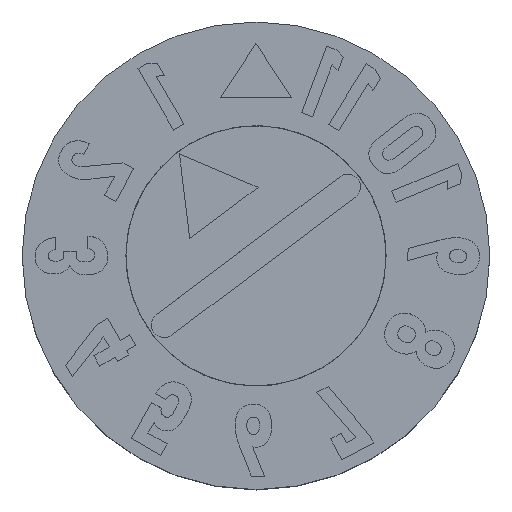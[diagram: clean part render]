
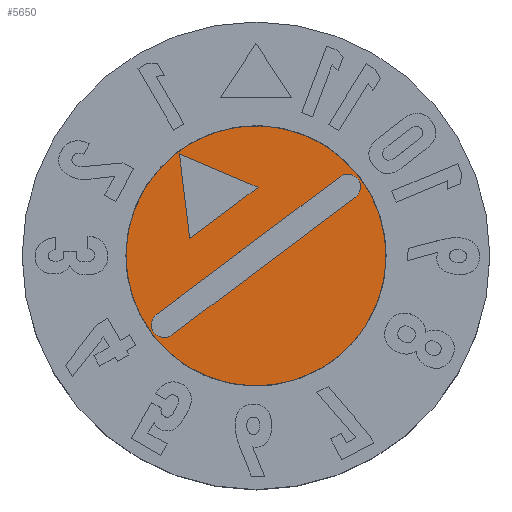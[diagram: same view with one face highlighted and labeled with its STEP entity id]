
A CAD part, top view. The second image highlights one B-rep face of the part: STEP entity #5650.
In plain terms, the highlighted planar face has unit normal (0, 0, 1).
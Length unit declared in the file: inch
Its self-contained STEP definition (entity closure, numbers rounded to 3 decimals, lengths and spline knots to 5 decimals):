
#293 = VERTEX_POINT ( 'NONE', #6528 ) ;
#349 = DIRECTION ( 'NONE',  ( 1., 0., 0. ) ) ;
#446 = EDGE_LOOP ( 'NONE', ( #8397, #1066 ) ) ;
#497 = EDGE_CURVE ( 'NONE', #9546, #2699, #3506, .T. ) ;
#595 = VECTOR ( 'NONE', #9344, 39.37008 ) ;
#599 = CIRCLE ( 'NONE', #4933, 0.0124 ) ;
#856 = EDGE_CURVE ( 'NONE', #293, #1485, #6064, .T. ) ;
#882 = CARTESIAN_POINT ( 'NONE',  ( -0.11122, 0.0124, 0. ) ) ;
#952 = CARTESIAN_POINT ( 'NONE',  ( 0., 0., 0. ) ) ;
#1066 = ORIENTED_EDGE ( 'NONE', *, *, #4952, .F. ) ;
#1206 = PLANE ( 'NONE',  #8521 ) ;
#1221 = CARTESIAN_POINT ( 'NONE',  ( 0.11122, 0.0124, 0. ) ) ;
#1224 = LINE ( 'NONE', #6307, #7722 ) ;
#1311 = VERTEX_POINT ( 'NONE', #1686 ) ;
#1321 = VERTEX_POINT ( 'NONE', #7544 ) ;
#1462 = CARTESIAN_POINT ( 'NONE',  ( -0.11122, -0.0124, 0. ) ) ;
#1485 = VERTEX_POINT ( 'NONE', #3484 ) ;
#1563 = EDGE_CURVE ( 'NONE', #2965, #8453, #599, .T. ) ;
#1686 = CARTESIAN_POINT ( 'NONE',  ( -0.12598, 0., 0. ) ) ;
#1899 = CARTESIAN_POINT ( 'NONE',  ( 0.11122, 0., 0. ) ) ;
#1931 = FACE_OUTER_BOUND ( 'NONE', #446, .T. ) ;
#1980 = AXIS2_PLACEMENT_3D ( 'NONE', #1899, #2907, #8717 ) ;
#2322 = DIRECTION ( 'NONE',  ( -0.5, -0.866, 0. ) ) ;
#2642 = ORIENTED_EDGE ( 'NONE', *, *, #7780, .F. ) ;
#2697 = ORIENTED_EDGE ( 'NONE', *, *, #1563, .F. ) ;
#2699 = VERTEX_POINT ( 'NONE', #882 ) ;
#2803 = EDGE_CURVE ( 'NONE', #1321, #293, #1224, .T. ) ;
#2850 = DIRECTION ( 'NONE',  ( 1., 0., 0. ) ) ;
#2903 = CIRCLE ( 'NONE', #9537, 0.12598 ) ;
#2907 = DIRECTION ( 'NONE',  ( 0., 0., 1. ) ) ;
#2937 = VERTEX_POINT ( 'NONE', #1462 ) ;
#2965 = VERTEX_POINT ( 'NONE', #4417 ) ;
#3061 = CARTESIAN_POINT ( 'NONE',  ( -0.11122, -0.0124, 0. ) ) ;
#3237 = DIRECTION ( 'NONE',  ( 0., 0., -1. ) ) ;
#3428 = CIRCLE ( 'NONE', #8832, 0.12598 ) ;
#3448 = DIRECTION ( 'NONE',  ( 1., 0., 0. ) ) ;
#3484 = CARTESIAN_POINT ( 'NONE',  ( 0., 0.12343, 0. ) ) ;
#3506 = LINE ( 'NONE', #8689, #6934 ) ;
#3573 = CARTESIAN_POINT ( 'NONE',  ( 0.12598, 0., 0. ) ) ;
#3579 = CARTESIAN_POINT ( 'NONE',  ( 0.11122, 0., 0. ) ) ;
#3736 = LINE ( 'NONE', #8319, #8638 ) ;
#3913 = DIRECTION ( 'NONE',  ( -1., 0., 0. ) ) ;
#4417 = CARTESIAN_POINT ( 'NONE',  ( 0.11122, -0.0124, 0. ) ) ;
#4445 = CARTESIAN_POINT ( 'NONE',  ( 0., 0., 0. ) ) ;
#4546 = EDGE_LOOP ( 'NONE', ( #9069, #9388, #5450, #2697, #7998 ) ) ;
#4592 = EDGE_CURVE ( 'NONE', #2699, #2937, #6150, .T. ) ;
#4755 = AXIS2_PLACEMENT_3D ( 'NONE', #8808, #7936, #5134 ) ;
#4933 = AXIS2_PLACEMENT_3D ( 'NONE', #3579, #7159, #2850 ) ;
#4952 = EDGE_CURVE ( 'NONE', #5038, #1311, #2903, .T. ) ;
#5038 = VERTEX_POINT ( 'NONE', #3573 ) ;
#5134 = DIRECTION ( 'NONE',  ( 1., 0., 0. ) ) ;
#5450 = ORIENTED_EDGE ( 'NONE', *, *, #7726, .F. ) ;
#5627 = CARTESIAN_POINT ( 'NONE',  ( 0.04137, 0.05177, 0. ) ) ;
#5650 = ADVANCED_FACE ( 'NONE', ( #9437, #6348, #1931 ), #1206, .T. ) ;
#5775 = EDGE_CURVE ( 'NONE', #1311, #5038, #3428, .T. ) ;
#6012 = DIRECTION ( 'NONE',  ( 1., 0., 0. ) ) ;
#6064 = LINE ( 'NONE', #5627, #595 ) ;
#6108 = EDGE_LOOP ( 'NONE', ( #6438, #7237, #2642 ) ) ;
#6150 = CIRCLE ( 'NONE', #4755, 0.0124 ) ;
#6160 = CIRCLE ( 'NONE', #1980, 0.0124 ) ;
#6307 = CARTESIAN_POINT ( 'NONE',  ( -0.04137, 0.05177, 0. ) ) ;
#6348 = FACE_BOUND ( 'NONE', #6108, .T. ) ;
#6421 = CARTESIAN_POINT ( 'NONE',  ( 0.12362, 0., 0. ) ) ;
#6438 = ORIENTED_EDGE ( 'NONE', *, *, #856, .F. ) ;
#6470 = EDGE_CURVE ( 'NONE', #2937, #2965, #6736, .T. ) ;
#6528 = CARTESIAN_POINT ( 'NONE',  ( 0.04137, 0.05177, 0. ) ) ;
#6736 = LINE ( 'NONE', #3061, #9422 ) ;
#6934 = VECTOR ( 'NONE', #7180, 39.37008 ) ;
#7119 = DIRECTION ( 'NONE',  ( 0., 0., 1. ) ) ;
#7159 = DIRECTION ( 'NONE',  ( 0., 0., 1. ) ) ;
#7180 = DIRECTION ( 'NONE',  ( -1., 0., 0. ) ) ;
#7237 = ORIENTED_EDGE ( 'NONE', *, *, #2803, .F. ) ;
#7400 = DIRECTION ( 'NONE',  ( 0., 0., -1. ) ) ;
#7451 = DIRECTION ( 'NONE',  ( -1., 0., 0. ) ) ;
#7544 = CARTESIAN_POINT ( 'NONE',  ( -0.04137, 0.05177, 0. ) ) ;
#7722 = VECTOR ( 'NONE', #349, 39.37008 ) ;
#7726 = EDGE_CURVE ( 'NONE', #8453, #9546, #6160, .T. ) ;
#7780 = EDGE_CURVE ( 'NONE', #1485, #1321, #3736, .T. ) ;
#7936 = DIRECTION ( 'NONE',  ( 0., 0., 1. ) ) ;
#7998 = ORIENTED_EDGE ( 'NONE', *, *, #6470, .F. ) ;
#8319 = CARTESIAN_POINT ( 'NONE',  ( 0., 0.12343, 0. ) ) ;
#8397 = ORIENTED_EDGE ( 'NONE', *, *, #5775, .F. ) ;
#8453 = VERTEX_POINT ( 'NONE', #6421 ) ;
#8521 = AXIS2_PLACEMENT_3D ( 'NONE', #8670, #7119, #3448 ) ;
#8638 = VECTOR ( 'NONE', #2322, 39.37008 ) ;
#8670 = CARTESIAN_POINT ( 'NONE',  ( 0.06299, 0., 0. ) ) ;
#8689 = CARTESIAN_POINT ( 'NONE',  ( -0.11122, 0.0124, 0. ) ) ;
#8717 = DIRECTION ( 'NONE',  ( 1., 0., 0. ) ) ;
#8808 = CARTESIAN_POINT ( 'NONE',  ( -0.11122, 0., 0. ) ) ;
#8832 = AXIS2_PLACEMENT_3D ( 'NONE', #4445, #7400, #7451 ) ;
#9069 = ORIENTED_EDGE ( 'NONE', *, *, #4592, .F. ) ;
#9344 = DIRECTION ( 'NONE',  ( -0.5, 0.866, 0. ) ) ;
#9388 = ORIENTED_EDGE ( 'NONE', *, *, #497, .F. ) ;
#9422 = VECTOR ( 'NONE', #6012, 39.37008 ) ;
#9437 = FACE_BOUND ( 'NONE', #4546, .T. ) ;
#9537 = AXIS2_PLACEMENT_3D ( 'NONE', #952, #3237, #3913 ) ;
#9546 = VERTEX_POINT ( 'NONE', #1221 ) ;
